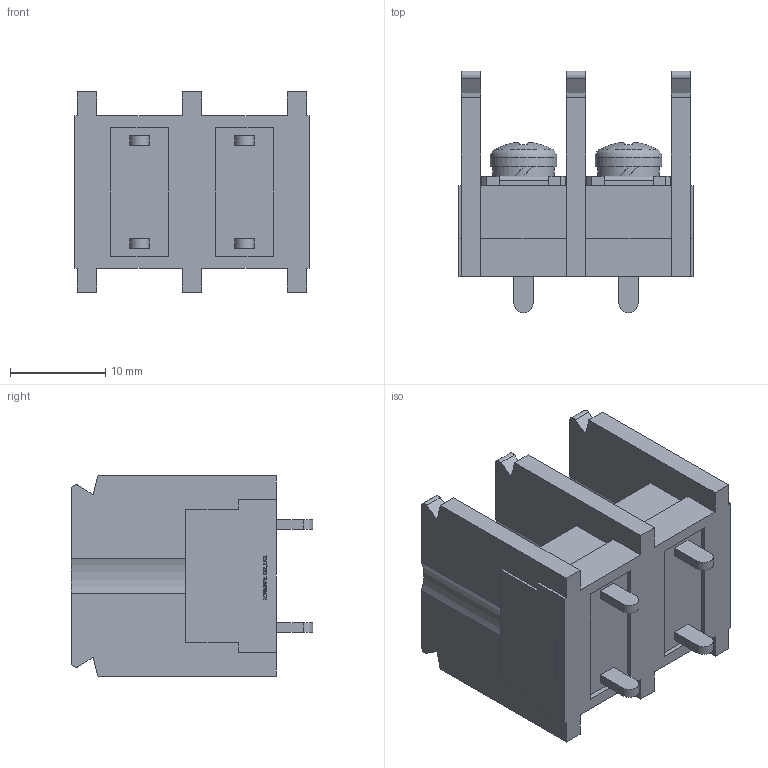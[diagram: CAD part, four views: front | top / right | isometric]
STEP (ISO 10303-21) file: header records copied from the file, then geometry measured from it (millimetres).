
FILE_DESCRIPTION(/* description */ ('Alibre Inc.'),/* implementation_level */ '2;1');
FILE_NAME(/* name */ 'export0',/* time_stamp */ '2015-12-02T12:28:49+09:00',/* author */ (''),/* organization */ (''),/* preprocessor_version */ 'ST-DEVELOPER v14',/* originating_system */ 'Alibre',/* authorisation */ '');
FILE_SCHEMA (('CONFIG_CONTROL_DESIGN'));
Length unit declared in the file: centimetre
Products named in the file (1): ID_1
Bounding box: 24.6 x 25.3 x 21 mm (x, y, z)
Volume: 4813.8 mm3; surface area: 5208.9 mm2
Topology: 1 solids, 17 shells, 612 faces, 1628 edges, 1084 vertices
Faces by surface type: plane 466, bspline 104, cylinder 28, cone 10, sphere 2, torus 2
Full cylindrical faces by diameter (mm): 4 x2, 6.5 x2, 7 x2
Entity records: 18283 total; most frequent: CARTESIAN_POINT 4258, ORIENTED_EDGE 3240, DIRECTION 2001, EDGE_CURVE 1620, VECTOR 1263, LINE 1263, VERTEX_POINT 1084, EDGE_LOOP 666
